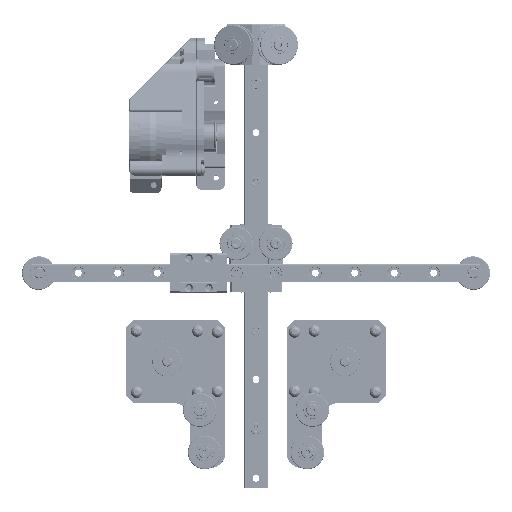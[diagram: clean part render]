
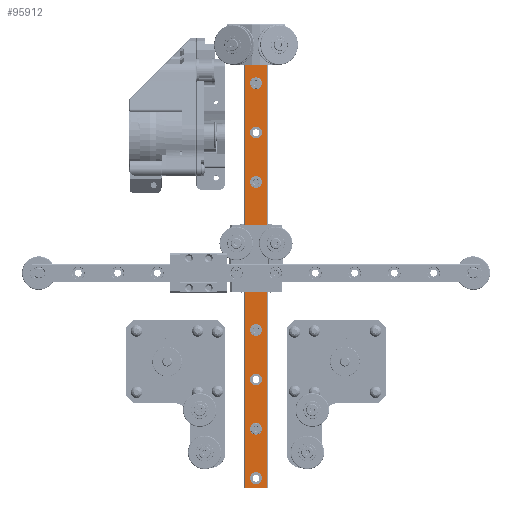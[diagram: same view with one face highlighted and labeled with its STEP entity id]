
A CAD part, top view. The second image highlights one B-rep face of the part: STEP entity #95912.
In plain terms, the highlighted planar face has unit normal (0, 0, 1).
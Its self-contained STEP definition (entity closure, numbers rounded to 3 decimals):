
#7674=FACE_BOUND('',#20466,.T.);
#7675=FACE_BOUND('',#20467,.T.);
#7676=FACE_BOUND('',#20468,.T.);
#7677=FACE_BOUND('',#20469,.T.);
#7678=FACE_BOUND('',#20470,.T.);
#7679=FACE_BOUND('',#20471,.T.);
#7680=FACE_BOUND('',#20472,.T.);
#7681=FACE_BOUND('',#20473,.T.);
#7682=FACE_BOUND('',#20474,.T.);
#7683=FACE_BOUND('',#20475,.T.);
#9033=PLANE('',#106820);
#14585=FACE_OUTER_BOUND('',#20465,.T.);
#20465=EDGE_LOOP('',(#84341,#84342,#84343,#84344));
#20466=EDGE_LOOP('',(#84345));
#20467=EDGE_LOOP('',(#84346));
#20468=EDGE_LOOP('',(#84347));
#20469=EDGE_LOOP('',(#84348));
#20470=EDGE_LOOP('',(#84349));
#20471=EDGE_LOOP('',(#84350));
#20472=EDGE_LOOP('',(#84351));
#20473=EDGE_LOOP('',(#84352));
#20474=EDGE_LOOP('',(#84353));
#20475=EDGE_LOOP('',(#84354));
#25304=LINE('',#252142,#30356);
#25344=LINE('',#252270,#30396);
#25346=LINE('',#252273,#30398);
#25347=LINE('',#252274,#30399);
#30356=VECTOR('',#128779,1000.);
#30396=VECTOR('',#128901,1000.);
#30398=VECTOR('',#128905,1000.);
#30399=VECTOR('',#128906,1000.);
#35802=CIRCLE('',#106712,3.);
#35803=CIRCLE('',#106714,3.);
#35806=CIRCLE('',#106718,3.);
#35808=CIRCLE('',#106721,3.);
#35817=CIRCLE('',#106735,3.);
#35819=CIRCLE('',#106738,3.);
#35821=CIRCLE('',#106741,3.);
#35823=CIRCLE('',#106744,3.);
#35825=CIRCLE('',#106747,3.);
#35827=CIRCLE('',#106750,3.);
#44294=VERTEX_POINT('',#251992);
#44295=VERTEX_POINT('',#251996);
#44298=VERTEX_POINT('',#252004);
#44300=VERTEX_POINT('',#252010);
#44309=VERTEX_POINT('',#252038);
#44311=VERTEX_POINT('',#252044);
#44313=VERTEX_POINT('',#252050);
#44315=VERTEX_POINT('',#252056);
#44317=VERTEX_POINT('',#252062);
#44319=VERTEX_POINT('',#252068);
#44348=VERTEX_POINT('',#252139);
#44349=VERTEX_POINT('',#252141);
#44395=VERTEX_POINT('',#252267);
#44396=VERTEX_POINT('',#252269);
#57886=EDGE_CURVE('',#44294,#44294,#35802,.T.);
#57887=EDGE_CURVE('',#44295,#44295,#35803,.T.);
#57892=EDGE_CURVE('',#44298,#44298,#35806,.T.);
#57895=EDGE_CURVE('',#44300,#44300,#35808,.T.);
#57908=EDGE_CURVE('',#44309,#44309,#35817,.T.);
#57911=EDGE_CURVE('',#44311,#44311,#35819,.T.);
#57914=EDGE_CURVE('',#44313,#44313,#35821,.T.);
#57917=EDGE_CURVE('',#44315,#44315,#35823,.T.);
#57920=EDGE_CURVE('',#44317,#44317,#35825,.T.);
#57923=EDGE_CURVE('',#44319,#44319,#35827,.T.);
#57959=EDGE_CURVE('',#44349,#44348,#25304,.T.);
#58023=EDGE_CURVE('',#44396,#44395,#25344,.T.);
#58025=EDGE_CURVE('',#44396,#44348,#25346,.T.);
#58026=EDGE_CURVE('',#44395,#44349,#25347,.T.);
#84341=ORIENTED_EDGE('',*,*,#57959,.T.);
#84342=ORIENTED_EDGE('',*,*,#58025,.F.);
#84343=ORIENTED_EDGE('',*,*,#58023,.T.);
#84344=ORIENTED_EDGE('',*,*,#58026,.T.);
#84345=ORIENTED_EDGE('',*,*,#57886,.T.);
#84346=ORIENTED_EDGE('',*,*,#57895,.T.);
#84347=ORIENTED_EDGE('',*,*,#57892,.T.);
#84348=ORIENTED_EDGE('',*,*,#57887,.T.);
#84349=ORIENTED_EDGE('',*,*,#57908,.T.);
#84350=ORIENTED_EDGE('',*,*,#57911,.T.);
#84351=ORIENTED_EDGE('',*,*,#57914,.T.);
#84352=ORIENTED_EDGE('',*,*,#57917,.T.);
#84353=ORIENTED_EDGE('',*,*,#57920,.T.);
#84354=ORIENTED_EDGE('',*,*,#57923,.T.);
#95912=ADVANCED_FACE('',(#14585,#7674,#7675,#7676,#7677,#7678,#7679,#7680,
#7681,#7682,#7683),#9033,.T.);
#106712=AXIS2_PLACEMENT_3D('',#251994,#128619,#128620);
#106714=AXIS2_PLACEMENT_3D('',#251997,#128623,#128624);
#106718=AXIS2_PLACEMENT_3D('',#252006,#128633,#128634);
#106721=AXIS2_PLACEMENT_3D('',#252012,#128640,#128641);
#106735=AXIS2_PLACEMENT_3D('',#252039,#128672,#128673);
#106738=AXIS2_PLACEMENT_3D('',#252045,#128679,#128680);
#106741=AXIS2_PLACEMENT_3D('',#252051,#128686,#128687);
#106744=AXIS2_PLACEMENT_3D('',#252057,#128693,#128694);
#106747=AXIS2_PLACEMENT_3D('',#252063,#128700,#128701);
#106750=AXIS2_PLACEMENT_3D('',#252069,#128707,#128708);
#106820=AXIS2_PLACEMENT_3D('',#252272,#128903,#128904);
#128619=DIRECTION('center_axis',(0.,0.,-1.));
#128620=DIRECTION('ref_axis',(1.,0.,0.));
#128623=DIRECTION('center_axis',(0.,0.,-1.));
#128624=DIRECTION('ref_axis',(1.,0.,0.));
#128633=DIRECTION('center_axis',(0.,0.,-1.));
#128634=DIRECTION('ref_axis',(1.,0.,0.));
#128640=DIRECTION('center_axis',(0.,0.,-1.));
#128641=DIRECTION('ref_axis',(1.,0.,0.));
#128672=DIRECTION('center_axis',(0.,0.,-1.));
#128673=DIRECTION('ref_axis',(-1.,0.,0.));
#128679=DIRECTION('center_axis',(0.,0.,-1.));
#128680=DIRECTION('ref_axis',(-1.,0.,0.));
#128686=DIRECTION('center_axis',(0.,0.,-1.));
#128687=DIRECTION('ref_axis',(-1.,0.,0.));
#128693=DIRECTION('center_axis',(0.,0.,-1.));
#128694=DIRECTION('ref_axis',(-1.,0.,0.));
#128700=DIRECTION('center_axis',(0.,0.,-1.));
#128701=DIRECTION('ref_axis',(-1.,0.,0.));
#128707=DIRECTION('center_axis',(0.,0.,-1.));
#128708=DIRECTION('ref_axis',(-1.,0.,0.));
#128779=DIRECTION('',(0.,1.,0.));
#128901=DIRECTION('',(0.,-1.,0.));
#128903=DIRECTION('center_axis',(0.,0.,1.));
#128904=DIRECTION('ref_axis',(1.,0.,0.));
#128905=DIRECTION('',(1.,0.,0.));
#128906=DIRECTION('',(1.,0.,0.));
#251992=CARTESIAN_POINT('',(-3.,0.,8.));
#251994=CARTESIAN_POINT('Origin',(0.,0.,8.));
#251996=CARTESIAN_POINT('',(72.,0.,8.));
#251997=CARTESIAN_POINT('Origin',(75.,0.,8.));
#252004=CARTESIAN_POINT('',(47.,0.,8.));
#252006=CARTESIAN_POINT('Origin',(50.,0.,8.));
#252010=CARTESIAN_POINT('',(22.,0.,8.));
#252012=CARTESIAN_POINT('Origin',(25.,0.,8.));
#252038=CARTESIAN_POINT('',(228.,0.,8.));
#252039=CARTESIAN_POINT('Origin',(225.,0.,8.));
#252044=CARTESIAN_POINT('',(128.,0.,8.));
#252045=CARTESIAN_POINT('Origin',(125.,0.,8.));
#252050=CARTESIAN_POINT('',(153.,0.,8.));
#252051=CARTESIAN_POINT('Origin',(150.,0.,8.));
#252056=CARTESIAN_POINT('',(203.,0.,8.));
#252057=CARTESIAN_POINT('Origin',(200.,0.,8.));
#252062=CARTESIAN_POINT('',(103.,0.,8.));
#252063=CARTESIAN_POINT('Origin',(100.,0.,8.));
#252068=CARTESIAN_POINT('',(178.,0.,8.));
#252069=CARTESIAN_POINT('Origin',(175.,0.,8.));
#252139=CARTESIAN_POINT('',(230.,5.5,8.));
#252141=CARTESIAN_POINT('',(230.,-5.5,8.));
#252142=CARTESIAN_POINT('',(230.,-2.747,8.));
#252267=CARTESIAN_POINT('',(-5.,-5.5,8.));
#252269=CARTESIAN_POINT('',(-5.,5.5,8.));
#252270=CARTESIAN_POINT('',(-5.,-2.747,8.));
#252272=CARTESIAN_POINT('Origin',(-10.,-5.5,8.));
#252273=CARTESIAN_POINT('',(90.,5.5,8.));
#252274=CARTESIAN_POINT('',(-10.,-5.5,8.));
